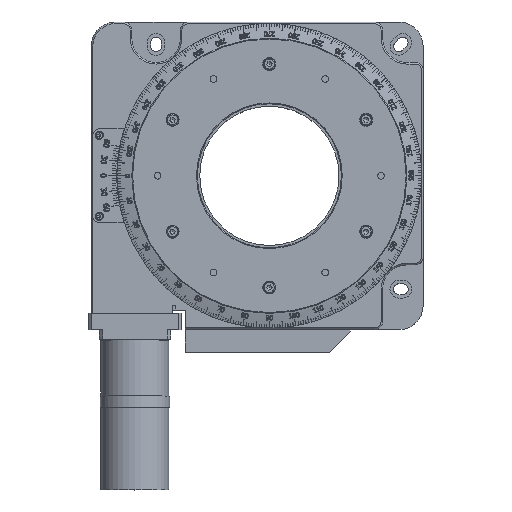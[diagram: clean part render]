
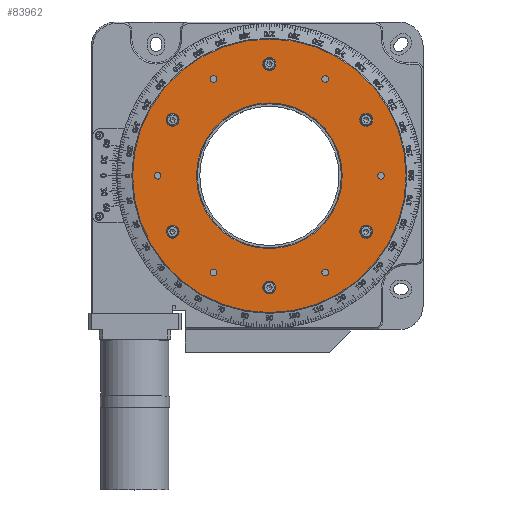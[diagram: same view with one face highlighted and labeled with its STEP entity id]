
A CAD part, top view. The second image highlights one B-rep face of the part: STEP entity #83962.
In plain terms, the highlighted planar face has unit normal (0, 0, 1).
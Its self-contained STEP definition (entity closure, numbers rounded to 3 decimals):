
#18840=FACE_BOUND($,#33571,.T.);
#18841=FACE_BOUND($,#33572,.T.);
#18842=FACE_BOUND($,#33573,.T.);
#18843=FACE_BOUND($,#33574,.T.);
#18844=FACE_BOUND($,#33575,.T.);
#18845=FACE_BOUND($,#33576,.T.);
#18846=FACE_BOUND($,#33577,.T.);
#18847=FACE_BOUND($,#33578,.T.);
#18848=FACE_BOUND($,#33579,.T.);
#18849=FACE_BOUND($,#33580,.T.);
#18850=FACE_BOUND($,#33581,.T.);
#18851=FACE_BOUND($,#33582,.T.);
#18852=FACE_BOUND($,#33583,.T.);
#18853=FACE_BOUND($,#33584,.T.);
#33571=EDGE_LOOP($,(#76325));
#33572=EDGE_LOOP($,(#76326));
#33573=EDGE_LOOP($,(#76327));
#33574=EDGE_LOOP($,(#76328));
#33575=EDGE_LOOP($,(#76329));
#33576=EDGE_LOOP($,(#76330));
#33577=EDGE_LOOP($,(#76331));
#33578=EDGE_LOOP($,(#76332));
#33579=EDGE_LOOP($,(#76333));
#33580=EDGE_LOOP($,(#76334));
#33581=EDGE_LOOP($,(#76335));
#33582=EDGE_LOOP($,(#76336));
#33583=EDGE_LOOP($,(#76337));
#33584=EDGE_LOOP($,(#76338));
#34660=CIRCLE($,#88329,2.067);
#34663=CIRCLE($,#88334,4.);
#34664=CIRCLE($,#88336,2.067);
#34666=CIRCLE($,#88340,4.);
#34667=CIRCLE($,#88342,2.067);
#34670=CIRCLE($,#88347,4.);
#34671=CIRCLE($,#88349,2.067);
#34673=CIRCLE($,#88353,4.);
#34674=CIRCLE($,#88355,2.067);
#34676=CIRCLE($,#88359,4.);
#34679=CIRCLE($,#88364,4.);
#34680=CIRCLE($,#88366,2.067);
#34681=CIRCLE($,#88368,45.);
#34683=CIRCLE($,#88371,84.5);
#42319=VERTEX_POINT($,#466305);
#42322=VERTEX_POINT($,#466313);
#42323=VERTEX_POINT($,#466316);
#42325=VERTEX_POINT($,#466322);
#42326=VERTEX_POINT($,#466325);
#42329=VERTEX_POINT($,#466333);
#42330=VERTEX_POINT($,#466336);
#42332=VERTEX_POINT($,#466342);
#42333=VERTEX_POINT($,#466345);
#42335=VERTEX_POINT($,#466351);
#42338=VERTEX_POINT($,#466359);
#42339=VERTEX_POINT($,#466362);
#42340=VERTEX_POINT($,#466365);
#42342=VERTEX_POINT($,#466370);
#53777=EDGE_CURVE($,#42319,#42319,#34660,.T.);
#53780=EDGE_CURVE($,#42322,#42322,#34663,.T.);
#53781=EDGE_CURVE($,#42323,#42323,#34664,.T.);
#53783=EDGE_CURVE($,#42325,#42325,#34666,.T.);
#53784=EDGE_CURVE($,#42326,#42326,#34667,.T.);
#53787=EDGE_CURVE($,#42329,#42329,#34670,.T.);
#53788=EDGE_CURVE($,#42330,#42330,#34671,.T.);
#53790=EDGE_CURVE($,#42332,#42332,#34673,.T.);
#53791=EDGE_CURVE($,#42333,#42333,#34674,.T.);
#53793=EDGE_CURVE($,#42335,#42335,#34676,.T.);
#53796=EDGE_CURVE($,#42338,#42338,#34679,.T.);
#53797=EDGE_CURVE($,#42339,#42339,#34680,.T.);
#53798=EDGE_CURVE($,#42340,#42340,#34681,.T.);
#53800=EDGE_CURVE($,#42342,#42342,#34683,.T.);
#76325=ORIENTED_EDGE($,*,*,#53777,.T.);
#76326=ORIENTED_EDGE($,*,*,#53780,.T.);
#76327=ORIENTED_EDGE($,*,*,#53781,.T.);
#76328=ORIENTED_EDGE($,*,*,#53783,.T.);
#76329=ORIENTED_EDGE($,*,*,#53784,.T.);
#76330=ORIENTED_EDGE($,*,*,#53787,.T.);
#76331=ORIENTED_EDGE($,*,*,#53788,.T.);
#76332=ORIENTED_EDGE($,*,*,#53790,.T.);
#76333=ORIENTED_EDGE($,*,*,#53791,.T.);
#76334=ORIENTED_EDGE($,*,*,#53793,.T.);
#76335=ORIENTED_EDGE($,*,*,#53796,.T.);
#76336=ORIENTED_EDGE($,*,*,#53797,.T.);
#76337=ORIENTED_EDGE($,*,*,#53800,.F.);
#76338=ORIENTED_EDGE($,*,*,#53798,.T.);
#79297=PLANE($,#88370);
#83962=ADVANCED_FACE($,(#18840,#18841,#18842,#18843,#18844,#18845,#18846,
#18847,#18848,#18849,#18850,#18851,#18852,#18853),#79297,.T.);
#88329=AXIS2_PLACEMENT_3D($,#466306,#102121,#102122);
#88334=AXIS2_PLACEMENT_3D($,#466314,#102131,#102132);
#88336=AXIS2_PLACEMENT_3D($,#466317,#102135,#102136);
#88340=AXIS2_PLACEMENT_3D($,#466323,#102143,#102144);
#88342=AXIS2_PLACEMENT_3D($,#466326,#102147,#102148);
#88347=AXIS2_PLACEMENT_3D($,#466334,#102157,#102158);
#88349=AXIS2_PLACEMENT_3D($,#466337,#102161,#102162);
#88353=AXIS2_PLACEMENT_3D($,#466343,#102169,#102170);
#88355=AXIS2_PLACEMENT_3D($,#466346,#102173,#102174);
#88359=AXIS2_PLACEMENT_3D($,#466352,#102181,#102182);
#88364=AXIS2_PLACEMENT_3D($,#466360,#102191,#102192);
#88366=AXIS2_PLACEMENT_3D($,#466363,#102195,#102196);
#88368=AXIS2_PLACEMENT_3D($,#466366,#102199,#102200);
#88370=AXIS2_PLACEMENT_3D($,#466369,#102203,#102204);
#88371=AXIS2_PLACEMENT_3D($,#466371,#102205,#102206);
#102121=DIRECTION('center_axis',(0.,0.,
-1.));
#102122=DIRECTION('ref_axis',(0.866,-0.5,0.));
#102131=DIRECTION('center_axis',(0.,0.,
-1.));
#102132=DIRECTION('ref_axis',(0.866,-0.5,0.));
#102135=DIRECTION('center_axis',(0.,0.,
-1.));
#102136=DIRECTION('ref_axis',(0.866,0.5,0.));
#102143=DIRECTION('center_axis',(0.,0.,
-1.));
#102144=DIRECTION('ref_axis',(0.866,0.5,0.));
#102147=DIRECTION('center_axis',(0.,0.,
-1.));
#102148=DIRECTION('ref_axis',(0.,1.,0.));
#102157=DIRECTION('center_axis',(0.,0.,
-1.));
#102158=DIRECTION('ref_axis',(0.,1.,0.));
#102161=DIRECTION('center_axis',(0.,0.,
-1.));
#102162=DIRECTION('ref_axis',(-0.866,0.5,0.));
#102169=DIRECTION('center_axis',(0.,0.,
-1.));
#102170=DIRECTION('ref_axis',(-0.866,0.5,0.));
#102173=DIRECTION('center_axis',(0.,0.,
-1.));
#102174=DIRECTION('ref_axis',(-0.866,-0.5,0.));
#102181=DIRECTION('center_axis',(0.,0.,
-1.));
#102182=DIRECTION('ref_axis',(-0.866,-0.5,0.));
#102191=DIRECTION('center_axis',(0.,0.,
-1.));
#102192=DIRECTION('ref_axis',(0.,-1.,0.));
#102195=DIRECTION('center_axis',(0.,0.,
-1.));
#102196=DIRECTION('ref_axis',(0.,-1.,0.));
#102199=DIRECTION('center_axis',(0.,0.,
-1.));
#102200=DIRECTION('ref_axis',(0.,-1.,0.));
#102203=DIRECTION('center_axis',(0.,0.,
1.));
#102204=DIRECTION('ref_axis',(-1.,0.,0.));
#102205=DIRECTION('center_axis',(0.,0.,
-1.));
#102206=DIRECTION('ref_axis',(0.,-1.,0.));
#466305=CARTESIAN_POINT('',(25.208,76.57,26.5));
#466306=CARTESIAN_POINT('Origin',(23.418,77.604,26.5));
#466313=CARTESIAN_POINT('',(-7.618,84.848,26.5));
#466314=CARTESIAN_POINT('Origin',(-11.082,86.848,26.5));
#466316=CARTESIAN_POINT('',(-43.792,78.637,26.5));
#466317=CARTESIAN_POINT('Origin',(-45.582,77.604,26.5));
#466322=CARTESIAN_POINT('',(-67.374,54.348,26.5));
#466323=CARTESIAN_POINT('Origin',(-70.838,52.348,26.5));
#466325=CARTESIAN_POINT('',(-80.082,19.915,26.5));
#466326=CARTESIAN_POINT('Origin',(-80.082,17.848,26.5));
#466333=CARTESIAN_POINT('',(-70.838,-12.652,26.5));
#466334=CARTESIAN_POINT('Origin',(-70.838,-16.652,26.5));
#466336=CARTESIAN_POINT('',(-47.372,-40.874,26.5));
#466337=CARTESIAN_POINT('Origin',(-45.582,-41.908,26.5));
#466342=CARTESIAN_POINT('',(-14.546,-49.152,26.5));
#466343=CARTESIAN_POINT('Origin',(-11.082,-51.152,26.5));
#466345=CARTESIAN_POINT('',(21.628,-42.941,26.5));
#466346=CARTESIAN_POINT('Origin',(23.418,-41.908,26.5));
#466351=CARTESIAN_POINT('',(45.209,-18.652,26.5));
#466352=CARTESIAN_POINT('Origin',(48.673,-16.652,26.5));
#466359=CARTESIAN_POINT('',(48.673,48.348,26.5));
#466360=CARTESIAN_POINT('Origin',(48.673,52.348,26.5));
#466362=CARTESIAN_POINT('',(57.918,15.781,26.5));
#466363=CARTESIAN_POINT('Origin',(57.918,17.848,26.5));
#466365=CARTESIAN_POINT('',(-11.082,-27.152,26.5));
#466366=CARTESIAN_POINT('Origin',(-11.082,17.848,26.5));
#466369=CARTESIAN_POINT('Origin',(-11.082,-46.902,26.5));
#466370=CARTESIAN_POINT('',(-11.082,-66.652,26.5));
#466371=CARTESIAN_POINT('Origin',(-11.082,17.848,26.5));
